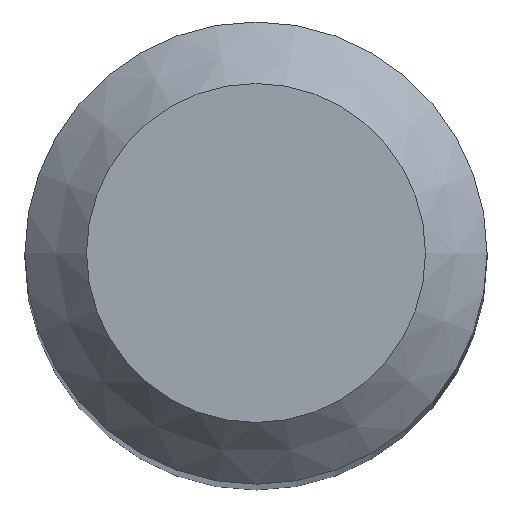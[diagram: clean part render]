
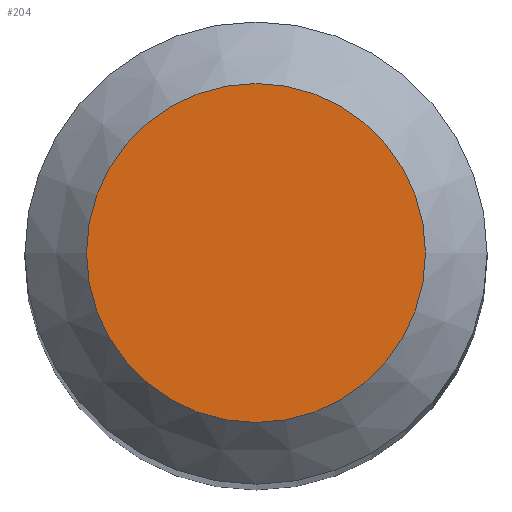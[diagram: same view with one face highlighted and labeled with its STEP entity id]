
A CAD part, top view. The second image highlights one B-rep face of the part: STEP entity #204.
In plain terms, the highlighted planar face has unit normal (0, 0, 1).
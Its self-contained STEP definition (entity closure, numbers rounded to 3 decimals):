
#184=CARTESIAN_POINT('',(-2.2,0.,60.));
#185=VERTEX_POINT('',#184);
#186=CARTESIAN_POINT('',(0.0,0.,60.));
#187=DIRECTION('',(0.0,0.0,-1.0));
#188=DIRECTION('',(-1.0,0.0,0.0));
#189=AXIS2_PLACEMENT_3D('',#186,#187,#188);
#190=CIRCLE('',#189,2.2);
#191=EDGE_CURVE('',#185,#185,#190,.T.);
#196=CARTESIAN_POINT('',(0.0,0.,60.));
#197=DIRECTION('',(0.0,0.0,-1.0));
#198=DIRECTION('',(-1.0,0.0,0.0));
#199=AXIS2_PLACEMENT_3D('',#196,#197,#198);
#200=PLANE('',#199);
#201=ORIENTED_EDGE('',*,*,#191,.F.);
#202=EDGE_LOOP('',(#201));
#203=FACE_OUTER_BOUND('',#202,.T.);
#204=ADVANCED_FACE('',(#203),#200,.F.);
